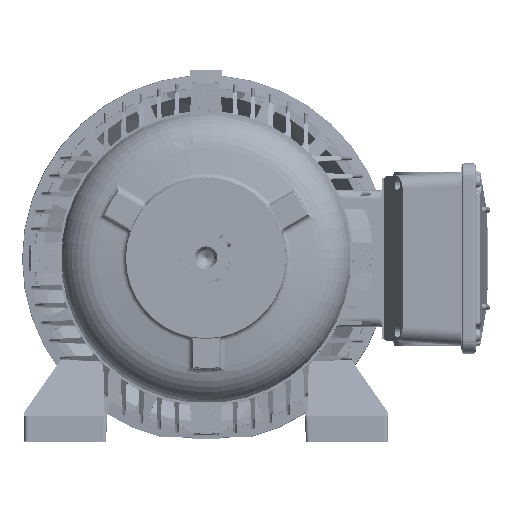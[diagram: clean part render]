
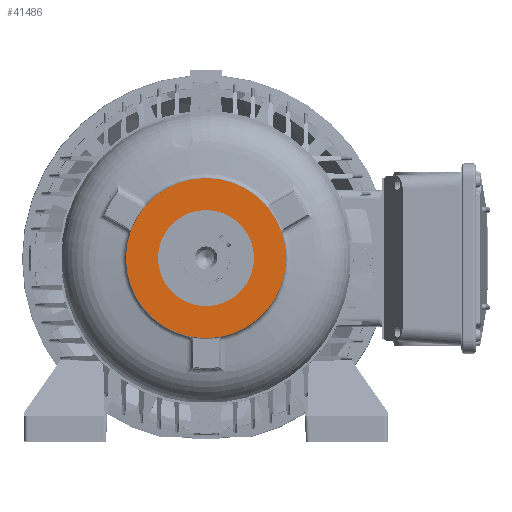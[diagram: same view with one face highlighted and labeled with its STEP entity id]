
A CAD part, top view. The second image highlights one B-rep face of the part: STEP entity #41486.
In plain terms, the highlighted planar face has unit normal (0, 0, 1) as drawn and (-1, 0, 0) by its records, which use the part's own axes.
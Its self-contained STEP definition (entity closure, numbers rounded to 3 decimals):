
#12822 = VERTEX_POINT ( 'NONE', #78425 ) ;
#21844 = AXIS2_PLACEMENT_3D ( 'NONE', #48131, #161030, #64295 ) ;
#33137 = VERTEX_POINT ( 'NONE', #55594 ) ;
#33392 = DIRECTION ( 'NONE',  ( -1., 0., 0. ) ) ;
#37534 = ORIENTED_EDGE ( 'NONE', *, *, #49965, .F. ) ;
#38134 = PLANE ( 'NONE',  #95011 ) ;
#41486 = ADVANCED_FACE ( 'NONE', ( #159567, #202437 ), #38134, .T. ) ;
#48131 = CARTESIAN_POINT ( 'NONE',  ( 2., 0., 0. ) ) ;
#48178 = DIRECTION ( 'NONE',  ( -1., 0., 0. ) ) ;
#49965 = EDGE_CURVE ( 'NONE', #33137, #183599, #132355, .T. ) ;
#55594 = CARTESIAN_POINT ( 'NONE',  ( 2., 0., 42. ) ) ;
#63075 = CARTESIAN_POINT ( 'NONE',  ( 2., 0., 0. ) ) ;
#64295 = DIRECTION ( 'NONE',  ( 0., 0., 1. ) ) ;
#66118 = CARTESIAN_POINT ( 'NONE',  ( 2., 0., -42. ) ) ;
#75109 = EDGE_LOOP ( 'NONE', ( #152891, #189358 ) ) ;
#78425 = CARTESIAN_POINT ( 'NONE',  ( 2., 0., 70. ) ) ;
#79284 = DIRECTION ( 'NONE',  ( 0., 0., 1. ) ) ;
#82282 = CIRCLE ( 'NONE', #21844, 70. ) ;
#84763 = CIRCLE ( 'NONE', #153194, 42. ) ;
#86839 = DIRECTION ( 'NONE',  ( -1., 0., 0. ) ) ;
#92596 = EDGE_CURVE ( 'NONE', #171195, #12822, #82282, .T. ) ;
#95011 = AXIS2_PLACEMENT_3D ( 'NONE', #118550, #86839, #199772 ) ;
#118550 = CARTESIAN_POINT ( 'NONE',  ( 2., -42., 0. ) ) ;
#129375 = EDGE_CURVE ( 'NONE', #183599, #33137, #84763, .T. ) ;
#130104 = CARTESIAN_POINT ( 'NONE',  ( 2., 0., 0. ) ) ;
#132355 = CIRCLE ( 'NONE', #150041, 42. ) ;
#141610 = CARTESIAN_POINT ( 'NONE',  ( 2., 0., -70. ) ) ;
#143867 = EDGE_LOOP ( 'NONE', ( #37534, #204297 ) ) ;
#144810 = CARTESIAN_POINT ( 'NONE',  ( 2., 0., 0. ) ) ;
#146349 = DIRECTION ( 'NONE',  ( 0., 0., 1. ) ) ;
#150041 = AXIS2_PLACEMENT_3D ( 'NONE', #63075, #175983, #79284 ) ;
#152891 = ORIENTED_EDGE ( 'NONE', *, *, #181130, .T. ) ;
#153194 = AXIS2_PLACEMENT_3D ( 'NONE', #144810, #48178, #161077 ) ;
#159567 = FACE_OUTER_BOUND ( 'NONE', #75109, .T. ) ;
#161030 = DIRECTION ( 'NONE',  ( -1., 0., 0. ) ) ;
#161077 = DIRECTION ( 'NONE',  ( 0., 0., 1. ) ) ;
#166941 = CIRCLE ( 'NONE', #204980, 70. ) ;
#171195 = VERTEX_POINT ( 'NONE', #141610 ) ;
#175983 = DIRECTION ( 'NONE',  ( -1., 0., 0. ) ) ;
#181130 = EDGE_CURVE ( 'NONE', #12822, #171195, #166941, .T. ) ;
#183599 = VERTEX_POINT ( 'NONE', #66118 ) ;
#189358 = ORIENTED_EDGE ( 'NONE', *, *, #92596, .T. ) ;
#199772 = DIRECTION ( 'NONE',  ( 0., 0., 1. ) ) ;
#202437 = FACE_BOUND ( 'NONE', #143867, .T. ) ;
#204297 = ORIENTED_EDGE ( 'NONE', *, *, #129375, .F. ) ;
#204980 = AXIS2_PLACEMENT_3D ( 'NONE', #130104, #33392, #146349 ) ;
